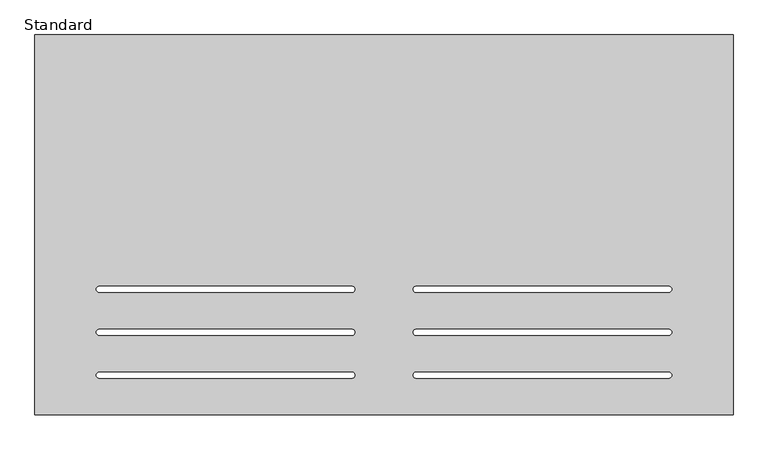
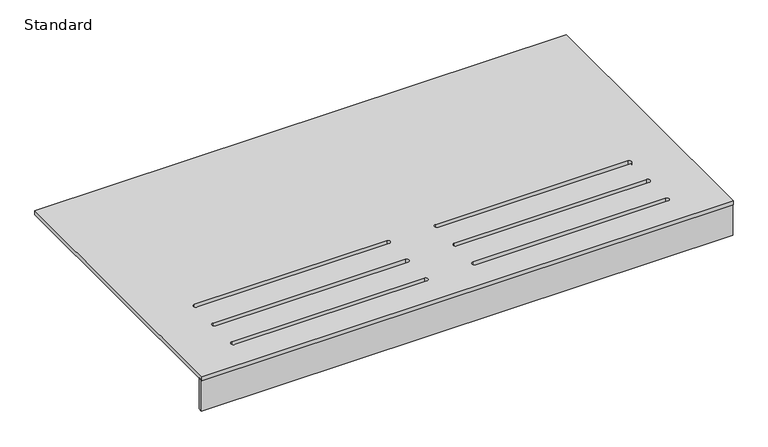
"""IFC4 building model written with IfcOpenShell, lengths in millimetres: furniture geometry, X_Bench-Wall-Duracube-Locker : Standard."""

from ifc_helpers import new_model, si_unit, point, frame, frame_2d, origin, place, context, project, spatial, polyline, circle_curve, trimmed, segment, composite_curve, outline, extrude, source, transform, mapped, element, save


def standard_f5e0fdab(model_context):
    return source(origin(), model_context, "Body", "SweptSolid", [
        extrude(outline(polyline([(857.7003264, -777.5), (857.7003264, -790.5), (-768.2996736, -790.5), (-768.2996736, -777.5), (857.7003264, -777.5)])), frame((0.0, 0.0, 357.0), z_axis=(0.0, 0.0, 1.0), x_axis=(1.0, 0.0, 0.0)), (0.0, 0.0, 1.0), 100.0),
        extrude(outline(polyline([(857.7003264, -792.5), (-768.2996736, -792.5), (-768.2996736, 92.5), (857.7003264, 92.5), (857.7003264, -792.5)]), holes=[composite_curve([segment(polyline([(-30.2996736, -493.25), (-618.2996736, -493.25)]), True, "CONTINUOUS"), segment(trimmed(circle_curve(frame_2d((-618.2996736, -500.25)), 7.0), [point((-618.2996736, -493.25))], [point((-618.2996736, -507.25))], True, "CARTESIAN"), True, "CONTINUOUS"), segment(polyline([(-618.2996736, -507.25), (-30.2996736, -507.25)]), True, "CONTINUOUS"), segment(trimmed(circle_curve(frame_2d((-30.2996736, -500.25)), 7.0), [point((-30.2996736, -507.25))], [point((-30.2996736, -493.25))], True, "CARTESIAN"), True, "CONTINUOUS")], self_intersect=False), composite_curve([segment(polyline([(-30.2996736, -593.0), (-618.2996736, -593.0)]), True, "CONTINUOUS"), segment(trimmed(circle_curve(frame_2d((-618.2996736, -600.0)), 7.0), [point((-618.2996736, -593.0))], [point((-618.2996736, -607.0))], True, "CARTESIAN"), True, "CONTINUOUS"), segment(polyline([(-618.2996736, -607.0), (-30.2996736, -607.0)]), True, "CONTINUOUS"), segment(trimmed(circle_curve(frame_2d((-30.2996736, -600.0)), 7.0), [point((-30.2996736, -607.0))], [point((-30.2996736, -593.0))], True, "CARTESIAN"), True, "CONTINUOUS")], self_intersect=False), composite_curve([segment(polyline([(-30.2996736, -692.75), (-618.2996736, -692.75)]), True, "CONTINUOUS"), segment(trimmed(circle_curve(frame_2d((-618.2996736, -699.75)), 7.0), [point((-618.2996736, -692.75))], [point((-618.2996736, -706.75))], True, "CARTESIAN"), True, "CONTINUOUS"), segment(polyline([(-618.2996736, -706.75), (-30.2996736, -706.75)]), True, "CONTINUOUS"), segment(trimmed(circle_curve(frame_2d((-30.2996736, -699.75)), 7.0), [point((-30.2996736, -706.75))], [point((-30.2996736, -692.75))], True, "CARTESIAN"), True, "CONTINUOUS")], self_intersect=False), composite_curve([segment(polyline([(707.7003264, -493.25), (119.7003264, -493.25)]), True, "CONTINUOUS"), segment(trimmed(circle_curve(frame_2d((119.7003264, -500.25)), 7.0), [point((119.7003264, -493.25))], [point((119.7003264, -507.25))], True, "CARTESIAN"), True, "CONTINUOUS"), segment(polyline([(119.7003264, -507.25), (707.7003264, -507.25)]), True, "CONTINUOUS"), segment(trimmed(circle_curve(frame_2d((707.7003264, -500.25)), 7.0), [point((707.7003264, -507.25))], [point((707.7003264, -493.25))], True, "CARTESIAN"), True, "CONTINUOUS")], self_intersect=False), composite_curve([segment(polyline([(707.7003264, -593.0), (119.7003264, -593.0)]), True, "CONTINUOUS"), segment(trimmed(circle_curve(frame_2d((119.7003264, -600.0)), 7.0), [point((119.7003264, -593.0))], [point((119.7003264, -607.0))], True, "CARTESIAN"), True, "CONTINUOUS"), segment(polyline([(119.7003264, -607.0), (707.7003264, -607.0)]), True, "CONTINUOUS"), segment(trimmed(circle_curve(frame_2d((707.7003264, -600.0)), 7.0), [point((707.7003264, -607.0))], [point((707.7003264, -593.0))], True, "CARTESIAN"), True, "CONTINUOUS")], self_intersect=False), composite_curve([segment(polyline([(707.7003264, -692.75), (119.7003264, -692.75)]), True, "CONTINUOUS"), segment(trimmed(circle_curve(frame_2d((119.7003264, -699.75)), 7.0), [point((119.7003264, -692.75))], [point((119.7003264, -706.75))], True, "CARTESIAN"), True, "CONTINUOUS"), segment(polyline([(119.7003264, -706.75), (707.7003264, -706.75)]), True, "CONTINUOUS"), segment(trimmed(circle_curve(frame_2d((707.7003264, -699.75)), 7.0), [point((707.7003264, -706.75))], [point((707.7003264, -692.75))], True, "CARTESIAN"), True, "CONTINUOUS")], self_intersect=False)]), frame((0.0, 0.0, 457.0), z_axis=(0.0, 0.0, 1.0), x_axis=(1.0, 0.0, 0.0)), (0.0, 0.0, 1.0), 13.0),
    ])


if __name__ == "__main__":
    model = new_model("IFC4")
    model_context = context("Model", 3, world=origin())
    ifc_project = project(units=[si_unit("LENGTHUNIT", "METRE", prefix="MILLI")], contexts=[model_context])
    site = spatial("IfcSite", under=ifc_project)
    building = spatial("IfcBuilding", under=site)
    placement = place(None, origin())
    standard_shape = standard_f5e0fdab(model_context)
    element("IfcFurniture", 1, ObjectType="X_Bench-Wall-Duracube-Locker : Standard", at=placement, inside=building, context=model_context, shape_type="MappedRepresentation", body=[
        mapped(standard_shape, transform((0.0, 0.0, 0.0), x_axis=(1.0, 0.0, 0.0), y_axis=(0.0, 1.0, 0.0), z_axis=(0.0, 0.0, 1.0))),
    ])
    save(model, "model.ifc")
